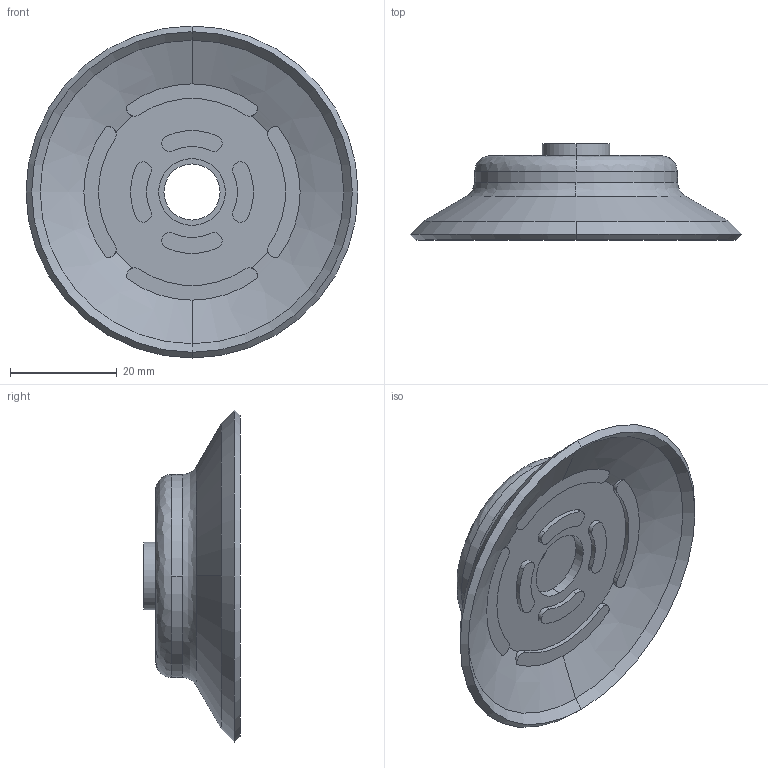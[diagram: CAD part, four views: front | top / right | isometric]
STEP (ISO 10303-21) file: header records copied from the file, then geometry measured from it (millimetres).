
FILE_DESCRIPTION (( 'STEP AP214' ), '1' );
FILE_NAME ('PFG-60.STEP', '2023-03-07T05:50:09', ( 'Windows User' ), ( 'P R C' ), 'SwSTEP 2.0', 'SolidWorks 2019', '' );
FILE_SCHEMA (( 'AUTOMOTIVE_DESIGN' ));
Length unit declared in the file: millimetre
Products named in the file (1): PFG-60
Bounding box: 62.12 x 18 x 62.12 mm (x, y, z)
Volume: 11630.6 mm3; surface area: 9444.8 mm2
Topology: 1 solids, 1 shells, 76 faces, 195 edges, 128 vertices
Faces by surface type: cylinder 49, plane 13, cone 10, bspline 4
Entity records: 2541 total; most frequent: CARTESIAN_POINT 582, DIRECTION 449, ORIENTED_EDGE 390, AXIS2_PLACEMENT_3D 197, EDGE_CURVE 195, VERTEX_POINT 128, CIRCLE 124, EDGE_LOOP 85
